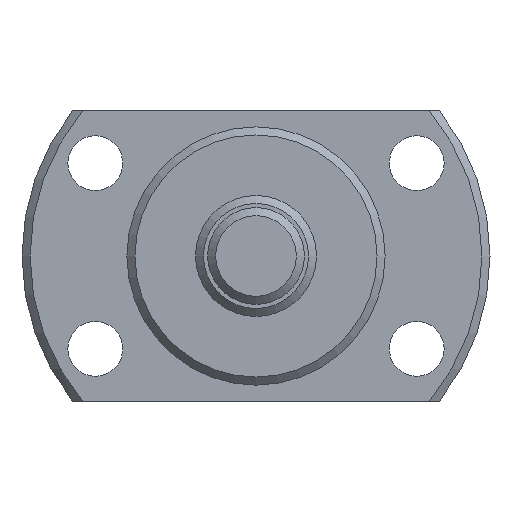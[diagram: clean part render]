
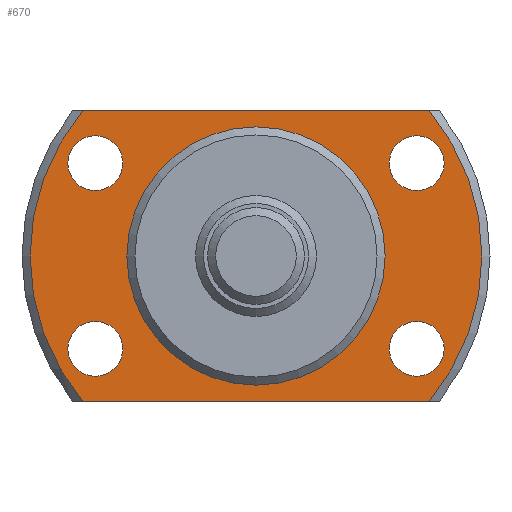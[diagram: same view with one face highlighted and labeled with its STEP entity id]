
A CAD part, left-side view. The second image highlights one B-rep face of the part: STEP entity #670.
In plain terms, the highlighted planar face has unit normal (-1, 0, 0).
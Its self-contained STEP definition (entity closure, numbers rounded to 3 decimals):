
#76=LINE('',#1169,#97);
#77=LINE('',#1173,#98);
#97=VECTOR('',#962,1000.);
#98=VECTOR('',#965,1000.);
#190=ORIENTED_EDGE('',*,*,#309,.T.);
#191=ORIENTED_EDGE('',*,*,#310,.T.);
#192=ORIENTED_EDGE('',*,*,#311,.T.);
#193=ORIENTED_EDGE('',*,*,#312,.T.);
#194=ORIENTED_EDGE('',*,*,#295,.F.);
#195=ORIENTED_EDGE('',*,*,#313,.T.);
#196=ORIENTED_EDGE('',*,*,#314,.F.);
#197=ORIENTED_EDGE('',*,*,#315,.T.);
#198=ORIENTED_EDGE('',*,*,#308,.T.);
#295=EDGE_CURVE('',#368,#369,#425,.T.);
#308=EDGE_CURVE('',#380,#380,#433,.T.);
#309=EDGE_CURVE('',#381,#381,#434,.T.);
#310=EDGE_CURVE('',#382,#382,#435,.T.);
#311=EDGE_CURVE('',#383,#383,#436,.T.);
#312=EDGE_CURVE('',#384,#384,#437,.T.);
#313=EDGE_CURVE('',#368,#385,#76,.T.);
#314=EDGE_CURVE('',#386,#385,#438,.T.);
#315=EDGE_CURVE('',#386,#369,#77,.T.);
#368=VERTEX_POINT('',#1117);
#369=VERTEX_POINT('',#1119);
#380=VERTEX_POINT('',#1159);
#381=VERTEX_POINT('',#1162);
#382=VERTEX_POINT('',#1164);
#383=VERTEX_POINT('',#1166);
#384=VERTEX_POINT('',#1168);
#385=VERTEX_POINT('',#1170);
#386=VERTEX_POINT('',#1172);
#425=CIRCLE('',#761,14.);
#433=CIRCLE('',#776,7.85);
#434=CIRCLE('',#778,1.7);
#435=CIRCLE('',#779,1.7);
#436=CIRCLE('',#780,1.7);
#437=CIRCLE('',#781,1.7);
#438=CIRCLE('',#782,14.);
#504=EDGE_LOOP('',(#190));
#505=EDGE_LOOP('',(#191));
#506=EDGE_LOOP('',(#192));
#507=EDGE_LOOP('',(#193));
#508=EDGE_LOOP('',(#194,#195,#196,#197));
#509=EDGE_LOOP('',(#198));
#589=FACE_BOUND('',#504,.T.);
#590=FACE_BOUND('',#505,.T.);
#591=FACE_BOUND('',#506,.T.);
#592=FACE_BOUND('',#507,.T.);
#593=FACE_BOUND('',#508,.T.);
#594=FACE_BOUND('',#509,.T.);
#632=PLANE('',#777);
#670=ADVANCED_FACE('',(#589,#590,#591,#592,#593,#594),#632,.F.);
#761=AXIS2_PLACEMENT_3D('',#1118,#918,#919);
#776=AXIS2_PLACEMENT_3D('',#1158,#950,#951);
#777=AXIS2_PLACEMENT_3D('',#1160,#952,#953);
#778=AXIS2_PLACEMENT_3D('',#1161,#954,#955);
#779=AXIS2_PLACEMENT_3D('',#1163,#956,#957);
#780=AXIS2_PLACEMENT_3D('',#1165,#958,#959);
#781=AXIS2_PLACEMENT_3D('',#1167,#960,#961);
#782=AXIS2_PLACEMENT_3D('',#1171,#963,#964);
#918=DIRECTION('',(1.,0.,0.));
#919=DIRECTION('',(0.,0.,-1.));
#950=DIRECTION('',(1.,0.,0.));
#951=DIRECTION('',(0.,0.,-1.));
#952=DIRECTION('',(1.,0.,0.));
#953=DIRECTION('',(0.,0.,-1.));
#954=DIRECTION('',(1.,0.,0.));
#955=DIRECTION('',(0.,0.,-1.));
#956=DIRECTION('',(1.,0.,0.));
#957=DIRECTION('',(0.,0.,-1.));
#958=DIRECTION('',(1.,0.,0.));
#959=DIRECTION('',(0.,0.,-1.));
#960=DIRECTION('',(1.,0.,0.));
#961=DIRECTION('',(0.,0.,-1.));
#962=DIRECTION('',(0.,-1.,0.));
#963=DIRECTION('',(1.,0.,0.));
#964=DIRECTION('',(0.,0.,-1.));
#965=DIRECTION('',(0.,1.,0.));
#1117=CARTESIAN_POINT('',(12.,10.724,-9.));
#1118=CARTESIAN_POINT('',(12.,0.,0.));
#1119=CARTESIAN_POINT('',(12.,10.724,9.));
#1158=CARTESIAN_POINT('',(12.,0.,0.));
#1159=CARTESIAN_POINT('',(12.,0.,-7.85));
#1160=CARTESIAN_POINT('',(12.,7.85,0.));
#1161=CARTESIAN_POINT('',(12.,-9.959,-5.75));
#1162=CARTESIAN_POINT('',(12.,-9.959,-7.45));
#1163=CARTESIAN_POINT('',(12.,-9.959,5.75));
#1164=CARTESIAN_POINT('',(12.,-9.959,4.05));
#1165=CARTESIAN_POINT('',(12.,9.959,-5.75));
#1166=CARTESIAN_POINT('',(12.,9.959,-7.45));
#1167=CARTESIAN_POINT('',(12.,9.959,5.75));
#1168=CARTESIAN_POINT('',(12.,9.959,4.05));
#1169=CARTESIAN_POINT('',(12.,7.85,-9.));
#1170=CARTESIAN_POINT('',(12.,-10.724,-9.));
#1171=CARTESIAN_POINT('',(12.,0.,0.));
#1172=CARTESIAN_POINT('',(12.,-10.724,9.));
#1173=CARTESIAN_POINT('',(12.,7.85,9.));
